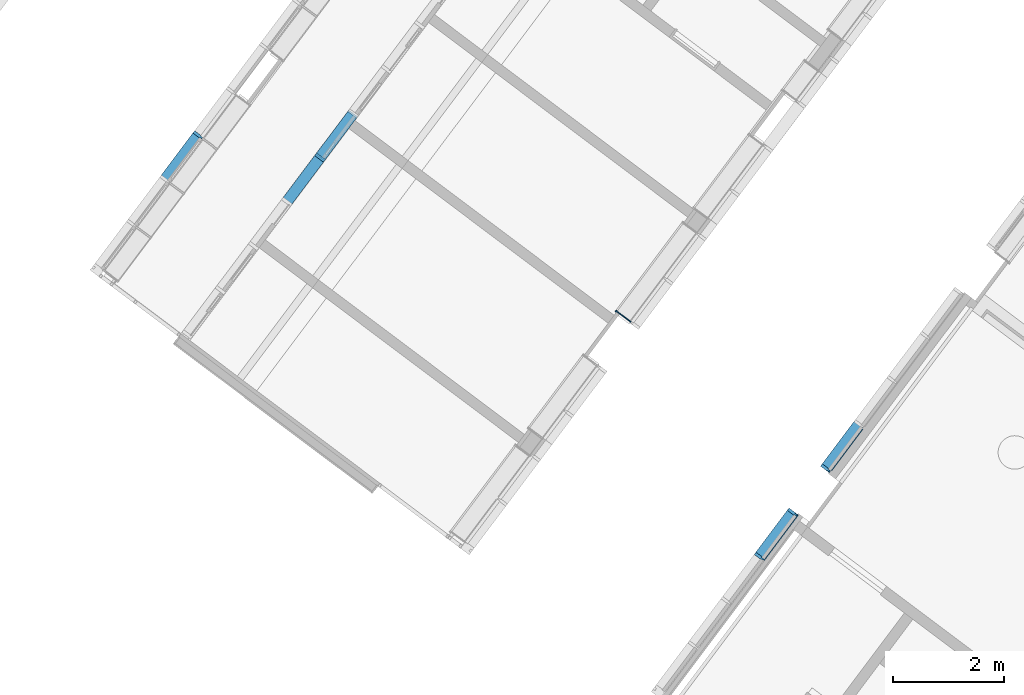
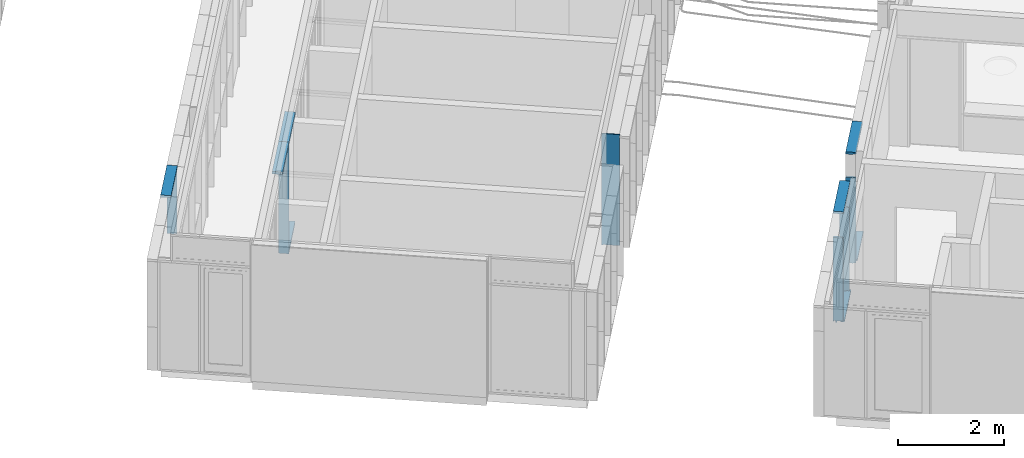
# One storey, part 17 of 243: 14 members, 4 elements without a shape of their own.
"""IFC2X3 building model written with IfcOpenShell, lengths in metres."""

from ifc_helpers import new_model, entity, si_unit, converted_unit, derived_unit, direction, frame, frame_2d, origin, place, context, subcontext, project, spatial, polyline, circle_curve, parameter, trimmed, segment, composite_curve, rectangle, outline, extrude, source, transform, mapped, material, type_object, type_shapes, element, aggregate, save


model = new_model("IFC2X3")

# Units and contexts
model_context = context("Model", 3, precision=1e-05, world=origin(), true_north=direction((6.123031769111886e-17, 1.0)))
body_context = subcontext(model_context, "Body", "Model", "MODEL_VIEW")
ifc_project = project(units=[si_unit("LENGTHUNIT", "METRE"), si_unit("AREAUNIT", "SQUARE_METRE"), si_unit("VOLUMEUNIT", "CUBIC_METRE"), converted_unit("PLANEANGLEUNIT", "DEGREE", entity("IfcRatioMeasure", 0.017453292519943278), si_unit("PLANEANGLEUNIT", "RADIAN"), dimensions=[0, 0, 0, 0, 0, 0, 0]), si_unit("MASSUNIT", "GRAM", prefix="KILO"), derived_unit("MASSDENSITYUNIT", [(si_unit("MASSUNIT", "GRAM", prefix="KILO"), 1), (si_unit("LENGTHUNIT", "METRE"), -3)]), derived_unit("IONCONCENTRATIONUNIT", [(si_unit("MASSUNIT", "GRAM", prefix="KILO"), 1), (si_unit("LENGTHUNIT", "METRE"), -3)]), derived_unit("MOMENTOFINERTIAUNIT", [(si_unit("LENGTHUNIT", "METRE"), 4)]), si_unit("TIMEUNIT", "SECOND"), si_unit("FREQUENCYUNIT", "HERTZ"), si_unit("THERMODYNAMICTEMPERATUREUNIT", "DEGREE_CELSIUS"), derived_unit("THERMALTRANSMITTANCEUNIT", [(si_unit("MASSUNIT", "GRAM", prefix="KILO"), 1), (si_unit("THERMODYNAMICTEMPERATUREUNIT", "KELVIN"), -1), (si_unit("TIMEUNIT", "SECOND"), -3)]), derived_unit("THERMALCONDUCTANCEUNIT", [(si_unit("MASSUNIT", "GRAM", prefix="KILO"), 1), (si_unit("THERMODYNAMICTEMPERATUREUNIT", "KELVIN"), -1), (si_unit("TIMEUNIT", "SECOND"), -3), (si_unit("LENGTHUNIT", "METRE"), 1)]), derived_unit("VOLUMETRICFLOWRATEUNIT", [(si_unit("LENGTHUNIT", "METRE"), 3), (si_unit("TIMEUNIT", "SECOND"), -1)]), derived_unit("MASSFLOWRATEUNIT", [(si_unit("MASSUNIT", "GRAM", prefix="KILO"), 1), (si_unit("TIMEUNIT", "SECOND"), -1)]), derived_unit("ROTATIONALFREQUENCYUNIT", [(si_unit("TIMEUNIT", "SECOND"), -1)]), si_unit("ELECTRICCURRENTUNIT", "AMPERE"), si_unit("ELECTRICVOLTAGEUNIT", "VOLT"), si_unit("POWERUNIT", "WATT"), si_unit("FORCEUNIT", "NEWTON", prefix="KILO"), si_unit("ILLUMINANCEUNIT", "LUX"), si_unit("LUMINOUSFLUXUNIT", "LUMEN"), si_unit("LUMINOUSINTENSITYUNIT", "CANDELA"), derived_unit("USERDEFINED", [(si_unit("MASSUNIT", "GRAM", prefix="KILO"), -1), (si_unit("LENGTHUNIT", "METRE"), -2), (si_unit("TIMEUNIT", "SECOND"), 3), (si_unit("LUMINOUSFLUXUNIT", "LUMEN"), 1)]), derived_unit("USERDEFINED", [(si_unit("MASSUNIT", "GRAM", prefix="KILO"), 1), (si_unit("TIMEUNIT", "SECOND"), -3), (si_unit("LENGTHUNIT", "METRE"), 3), (si_unit("ELECTRICCURRENTUNIT", "AMPERE"), -2)]), derived_unit("SOUNDPOWERUNIT", [(si_unit("MASSUNIT", "GRAM", prefix="KILO"), 1), (si_unit("TIMEUNIT", "SECOND"), -3), (si_unit("LENGTHUNIT", "METRE"), 2)]), derived_unit("SOUNDPRESSUREUNIT", [(si_unit("MASSUNIT", "GRAM", prefix="KILO"), 1), (si_unit("LENGTHUNIT", "METRE"), -1), (si_unit("TIMEUNIT", "SECOND"), -2)]), derived_unit("LINEARVELOCITYUNIT", [(si_unit("LENGTHUNIT", "METRE"), 1), (si_unit("TIMEUNIT", "SECOND"), -1)]), si_unit("PRESSUREUNIT", "PASCAL"), derived_unit("USERDEFINED", [(si_unit("MASSUNIT", "GRAM", prefix="KILO"), 1), (si_unit("LENGTHUNIT", "METRE"), -2), (si_unit("TIMEUNIT", "SECOND"), -2)]), derived_unit("LINEARFORCEUNIT", [(si_unit("MASSUNIT", "GRAM", prefix="KILO"), 1), (si_unit("TIMEUNIT", "SECOND"), -2)]), derived_unit("PLANARFORCEUNIT", [(si_unit("MASSUNIT", "GRAM", prefix="KILO"), 1), (si_unit("LENGTHUNIT", "METRE"), -1), (si_unit("TIMEUNIT", "SECOND"), -2)]), derived_unit("SPECIFICHEATCAPACITYUNIT", [(si_unit("THERMODYNAMICTEMPERATUREUNIT", "KELVIN"), -1), (si_unit("LENGTHUNIT", "METRE"), 2), (si_unit("TIMEUNIT", "SECOND"), -2)]), derived_unit("HEATINGVALUEUNIT", [(si_unit("LENGTHUNIT", "METRE"), 2), (si_unit("TIMEUNIT", "SECOND"), -2)]), derived_unit("VAPORPERMEABILITYUNIT", [(si_unit("LENGTHUNIT", "METRE"), -1), (si_unit("TIMEUNIT", "SECOND"), 1)]), derived_unit("DYNAMICVISCOSITYUNIT", [(si_unit("MASSUNIT", "GRAM", prefix="KILO"), 1), (si_unit("TIMEUNIT", "SECOND"), -1), (si_unit("LENGTHUNIT", "METRE"), -1)]), derived_unit("THERMALEXPANSIONCOEFFICIENTUNIT", [(si_unit("THERMODYNAMICTEMPERATUREUNIT", "KELVIN"), -1)]), derived_unit("MODULUSOFELASTICITYUNIT", [(si_unit("MASSUNIT", "GRAM", prefix="KILO"), 1), (si_unit("LENGTHUNIT", "METRE"), -1), (si_unit("TIMEUNIT", "SECOND"), -2)]), derived_unit("ISOTHERMALMOISTURECAPACITYUNIT", [(si_unit("LENGTHUNIT", "METRE"), 3), (si_unit("MASSUNIT", "GRAM", prefix="KILO"), -1)]), derived_unit("MOISTUREDIFFUSIVITYUNIT", [(si_unit("TIMEUNIT", "SECOND"), -1), (si_unit("LENGTHUNIT", "METRE"), 2)])], contexts=[model_context])

# Site, building, storey
site_placement = place(None, frame((0.0, 0.0, 235.0), z_axis=(0.0, 0.0, 1.0), x_axis=(-0.7996477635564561, 0.6004693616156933, 0.0)))
site = spatial("IfcSite", under=ifc_project, at=site_placement, Name="Default", CompositionType="ELEMENT")
building_placement = place(site_placement, origin())
building = spatial("IfcBuilding", under=site, at=building_placement, CompositionType="ELEMENT")
storey_placement = place(building_placement, origin())
storey = spatial("IfcBuildingStorey", under=building, at=storey_placement, Name="P0- Escola", CompositionType="ELEMENT", Elevation=0.0)

# Curtain wall, members
curtain_wall_type_1 = type_object("IfcCurtainWallType", Name="Muro cortina:MC- INT- a2", PredefinedType="NOTDEFINED")
curtain_wall_1_placement = place(storey_placement, origin())
curtain_wall_1 = element("IfcCurtainWall", 1, at=curtain_wall_1_placement, inside=storey, type_object=curtain_wall_type_1, Name="Muro cortina:MC- INT- a2", ObjectType="Muro cortina:MC- INT- a2")
ifc_material_1 = material(Name="_Fusta massisa- T1")
member_type_1 = type_object("IfcMemberType", Name="Montante rectangular:MC- Fusta- 20x6 cm- Neutre", PredefinedType="MULLION", material=ifc_material_1)
shared_shape_1 = source(origin(), body_context, "Body", "SweptSolid", [
    extrude(rectangle(XDim=0.2, YDim=0.06, at=frame_2d((-5.551115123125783e-17, 0.0), x_axis=(1.0, 0.0))), frame((0.0, 0.060000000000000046, -2.5050000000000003), z_axis=(0.0, 0.0, 1.0), x_axis=(0.0, -1.0, 0.0)), (0.0, 0.0, 1.0), 2.5050000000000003),
])
type_shapes(member_type_1, [shared_shape_1])
member_1_placement = place(curtain_wall_1_placement, frame((34.62014768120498, -24.41519175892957, 0.0), z_axis=(0.0, 0.0, -1.0), x_axis=(0.0, 1.0, 0.0)))
member_1 = element("IfcMember", 2, at=member_1_placement, type_object=member_type_1, material=ifc_material_1, Name="Montante rectangular:MC- Fusta- 20x6 cm- Neutre", ObjectType="Montante rectangular:MC- Fusta- 20x6 cm- Neutre", context=body_context, shape_type="MappedRepresentation", body=[
    mapped(shared_shape_1, transform((0.0, 0.0, 0.0), scale=1.0)),
])
member_type_2 = type_object("IfcMemberType", Name="Montante rectangular:MC- Fusta- 20x6 cm- Neutre", PredefinedType="MULLION", material=ifc_material_1)
shared_shape_2 = source(origin(), body_context, "Body", "SweptSolid", [
    extrude(rectangle(XDim=0.20000000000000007, YDim=0.06, at=frame_2d((-5.551115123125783e-17, 0.0), x_axis=(1.0, 0.0))), frame((-0.03, 0.06000000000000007, -1.0), z_axis=(0.0, 0.0, 1.0), x_axis=(0.0, -1.0, 0.0)), (0.0, 0.0, 1.0), 0.9999999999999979),
])
type_shapes(member_type_2, [shared_shape_2])
member_2_placement = place(curtain_wall_1_placement, frame((34.62014768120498, -23.415191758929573, 2.565), z_axis=(0.0, 1.0, 0.0), x_axis=(0.0, 0.0, 1.0)))
member_2 = element("IfcMember", 3, at=member_2_placement, type_object=member_type_2, material=ifc_material_1, Name="Montante rectangular:MC- Fusta- 20x6 cm- Neutre", ObjectType="Montante rectangular:MC- Fusta- 20x6 cm- Neutre", context=body_context, shape_type="MappedRepresentation", body=[
    mapped(shared_shape_2, transform((0.0, 0.0, 0.0), scale=1.0)),
])
member_type_3 = type_object("IfcMemberType", Name="Montante rectangular:MC- Fusta- 20x6 cm- Neutre", PredefinedType="MULLION", material=ifc_material_1)
shared_shape_3 = source(origin(), body_context, "Body", "SweptSolid", [
    extrude(rectangle(XDim=0.19999999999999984, YDim=0.06, at=frame_2d((4.85722573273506e-17, 0.0), x_axis=(1.0, 0.0))), frame((-0.03, 0.06000000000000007, -0.9399999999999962), z_axis=(0.0, 0.0, 1.0), x_axis=(0.0, -1.0, 0.0)), (0.0, 0.0, 1.0), 0.9399999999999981),
])
type_shapes(member_type_3, [shared_shape_3])
member_3_placement = place(curtain_wall_1_placement, frame((34.62014768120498, -25.38519175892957, 0.0), z_axis=(0.0, -1.0, 0.0), x_axis=(0.0, 0.0, -1.0)))
member_3 = element("IfcMember", 4, at=member_3_placement, type_object=member_type_3, material=ifc_material_1, Name="Montante rectangular:MC- Fusta- 20x6 cm- Neutre", ObjectType="Montante rectangular:MC- Fusta- 20x6 cm- Neutre", context=body_context, shape_type="MappedRepresentation", body=[
    mapped(shared_shape_3, transform((0.0, 0.0, 0.0), scale=1.0)),
])
member_type_4 = type_object("IfcMemberType", Name="Montante rectangular:MC- Fusta- 20x6 cm- Esquerra", PredefinedType="MULLION", material=ifc_material_1)
shared_shape_4 = source(origin(), body_context, "Body", "SweptSolid", [
    extrude(outline(polyline([(-0.13000000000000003, -0.018750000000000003), (0.020000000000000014, -0.018750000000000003), (0.020000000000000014, -0.003750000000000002), (0.040000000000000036, -0.003750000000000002), (0.04000000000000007, -0.01875000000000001), (0.07000000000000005, -0.018750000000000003), (0.06999999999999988, 0.041249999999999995), (-0.13000000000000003, 0.041249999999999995), (-0.13000000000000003, -0.018750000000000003)])), frame((-0.041249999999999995, 0.030000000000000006, -1.0), z_axis=(0.0, 0.0, 1.0), x_axis=(0.0, -1.0, 0.0)), (0.0, 0.0, 1.0), 0.9999999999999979),
])
type_shapes(member_type_4, [shared_shape_4])
member_4_placement = place(curtain_wall_1_placement, frame((34.62014768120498, -24.41519175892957, 2.565), z_axis=(0.0, 1.0, 0.0), x_axis=(0.0, 0.0, 1.0)))
member_4 = element("IfcMember", 5, at=member_4_placement, type_object=member_type_4, material=ifc_material_1, Name="Montante rectangular:MC- Fusta- 20x6 cm- Esquerra", ObjectType="Montante rectangular:MC- Fusta- 20x6 cm- Esquerra", context=body_context, shape_type="MappedRepresentation", body=[
    mapped(shared_shape_4, transform((0.0, 0.0, 0.0), scale=1.0)),
])
aggregate(curtain_wall_1, [member_4, member_1, member_2, member_3])

# Curtain wall, member
curtain_wall_type_2 = type_object("IfcCurtainWallType", Name="Muro cortina:MC- INT- k7- Aules infantil", PredefinedType="NOTDEFINED")
curtain_wall_2_placement = place(storey_placement, origin())
curtain_wall_2 = element("IfcCurtainWall", 6, at=curtain_wall_2_placement, inside=storey, type_object=curtain_wall_type_2, Name="Muro cortina:MC- INT- k7- Aules infantil", ObjectType="Muro cortina:MC- INT- k7- Aules infantil")
member_type_5 = type_object("IfcMemberType", Name="Montante rectangular:MC- Fusta- 35x3 cm- Pati aules- Remat esquerra", PredefinedType="MULLION", material=ifc_material_1)
shared_shape_5 = source(origin(), body_context, "Body", "SweptSolid", [
    extrude(outline(polyline([(-0.22000000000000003, -0.01666666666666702), (0.12500000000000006, -0.01666666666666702), (0.12499999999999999, 0.013333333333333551), (0.09500000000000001, 0.013333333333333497), (0.09499999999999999, 0.003333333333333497), (-0.22, 0.003333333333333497), (-0.22000000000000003, -0.01666666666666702)])), frame((-0.013333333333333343, 0.030000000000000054, -2.5649999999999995), z_axis=(0.0, 0.0, 1.0), x_axis=(0.0, -1.0, 0.0)), (0.0, 0.0, 1.0), 2.565),
])
type_shapes(member_type_5, [shared_shape_5])
member_5_placement = place(curtain_wall_2_placement, frame((28.64514768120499, -25.395191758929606, 2.565), z_axis=(0.0, 0.0, 1.0), x_axis=(0.0, 1.0, 0.0)))
member_5 = element("IfcMember", 7, at=member_5_placement, type_object=member_type_5, material=ifc_material_1, Name="Montante rectangular:MC- Fusta- 35x3 cm- Pati aules- Remat esquerra", ObjectType="Montante rectangular:MC- Fusta- 35x3 cm- Pati aules- Remat esquerra", context=body_context, shape_type="MappedRepresentation", body=[
    mapped(shared_shape_5, transform((0.0, 0.0, 0.0), scale=1.0)),
])
aggregate(curtain_wall_2, [member_5])

curtain_wall_type_3 = type_object("IfcCurtainWallType", Name="Muro cortina:MC- EXT- MC2", PredefinedType="NOTDEFINED")
curtain_wall_3_placement = place(storey_placement, origin())
curtain_wall_3 = element("IfcCurtainWall", 8, at=curtain_wall_3_placement, inside=storey, type_object=curtain_wall_type_3, Name="Muro cortina:MC- EXT- MC2", ObjectType="Muro cortina:MC- EXT- MC2")
ifc_material_2 = material(Name="_Alumini- T1- Perfil")
member_type_6 = type_object("IfcMemberType", Name="Montante rectangular:MC- Alu- 140x52,5 cm- Fa patis- inferior", PredefinedType="MULLION", material=ifc_material_2)
shared_shape_6 = source(origin(), body_context, "Body", "SweptSolid", [
    extrude(outline(composite_curve([segment(polyline([(-0.144167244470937, -0.02586710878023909), (-0.12786724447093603, -0.025867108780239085)]), True, "CONTINUOUS"), segment(polyline([(-0.12786724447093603, -0.025867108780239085), (-0.12786724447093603, -0.02316710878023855)]), True, "CONTINUOUS"), segment(polyline([(-0.12786724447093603, -0.02316710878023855), (-0.0678672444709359, -0.02316710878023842)]), True, "CONTINUOUS"), segment(polyline([(-0.0678672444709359, -0.02316710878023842), (0.07031215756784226, -0.010722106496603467)]), True, "CONTINUOUS"), segment(trimmed(circle_curve(frame_2d((0.07013275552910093, -0.008730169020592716), x_axis=(0.0897010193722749, -0.9959687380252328)), 0.0019999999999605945), [parameter(0.0)], [parameter(84.8535928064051)], True, "PARAMETER"), True, "CONTINUOUS"), segment(polyline([(0.07213275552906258, -0.00873016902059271), (0.07213275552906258, 0.0062663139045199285)]), True, "CONTINUOUS"), segment(trimmed(circle_curve(frame_2d((0.070132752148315, 0.006266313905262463), x_axis=(1.0, 0.0)), 0.002000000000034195), [parameter(0.0)], [parameter(90.00000002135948)], True, "PARAMETER"), True, "CONTINUOUS"), segment(polyline([(0.070132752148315, 0.00826631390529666), (0.06213275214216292, 0.008266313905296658)]), True, "CONTINUOUS"), segment(polyline([(0.06213275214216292, 0.008266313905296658), (0.06213275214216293, 0.006266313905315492)]), True, "CONTINUOUS"), segment(polyline([(0.06213275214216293, 0.006266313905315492), (0.06963275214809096, 0.006266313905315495)]), True, "CONTINUOUS"), segment(trimmed(circle_curve(frame_2d((0.06963275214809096, 0.005766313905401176), x_axis=(0.0, 1.0)), 0.0004999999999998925), [parameter(269.99999999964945)], [parameter(0.0)], True, "PARAMETER"), False, "CONTINUOUS"), segment(polyline([(0.07013275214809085, 0.0057663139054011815), (0.07013275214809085, -0.008730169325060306)]), True, "CONTINUOUS"), segment(polyline([(0.07013275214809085, -0.008730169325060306), (0.03213275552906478, -0.012152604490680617)]), True, "CONTINUOUS"), segment(polyline([(0.03213275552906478, -0.012152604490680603), (0.03213275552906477, 0.02913289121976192)]), True, "CONTINUOUS"), segment(polyline([(0.03213275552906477, 0.02913289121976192), (0.0021327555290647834, 0.02913289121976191)]), True, "CONTINUOUS"), segment(polyline([(0.0021327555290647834, 0.02913289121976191), (0.0021327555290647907, 0.027132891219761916)]), True, "CONTINUOUS"), segment(polyline([(0.0021327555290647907, 0.027132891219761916), (0.03013275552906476, 0.027132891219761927)]), True, "CONTINUOUS"), segment(polyline([(0.03013275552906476, 0.02713289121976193), (0.03013275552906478, -0.012332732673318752)]), True, "CONTINUOUS"), segment(polyline([(0.03013275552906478, -0.012332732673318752), (-0.06786724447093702, -0.021159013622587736)]), True, "CONTINUOUS"), segment(polyline([(-0.06786724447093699, -0.021159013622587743), (-0.067867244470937, 0.0091328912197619)]), True, "CONTINUOUS"), segment(polyline([(-0.06786724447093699, 0.0091328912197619), (-0.14416724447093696, 0.009132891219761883)]), True, "CONTINUOUS"), segment(polyline([(-0.14416724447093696, 0.009132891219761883), (-0.144167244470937, -0.02586710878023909)]), True, "CONTINUOUS")], self_intersect=False)), frame((-0.029132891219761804, -0.06786724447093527, -0.9474999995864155), z_axis=(0.0, 0.0, 1.0), x_axis=(0.0, -1.0, 0.0)), (0.0, 0.0, 1.0), 0.9474999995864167),
])
type_shapes(member_type_6, [shared_shape_6])
member_6_placement = place(curtain_wall_3_placement, frame((23.94514768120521, -25.44144175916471, -0.02), z_axis=(0.0, 1.0, 0.0), x_axis=(0.0, 0.0, -1.0)))
member_6 = element("IfcMember", 9, at=member_6_placement, type_object=member_type_6, material=ifc_material_2, Name="Montante rectangular:MC- Alu- 140x52,5 cm- Fa patis- inferior", ObjectType="Montante rectangular:MC- Alu- 140x52,5 cm- Fa patis- inferior", context=body_context, shape_type="MappedRepresentation", body=[
    mapped(shared_shape_6, transform((0.0, 0.0, 0.0), scale=1.0)),
])

curtain_wall_type_4 = type_object("IfcCurtainWallType", Name="Muro cortina:MC- EXT- MC5", PredefinedType="NOTDEFINED")
curtain_wall_4_placement = place(storey_placement, origin())
curtain_wall_4 = element("IfcCurtainWall", 10, at=curtain_wall_4_placement, inside=storey, type_object=curtain_wall_type_4, Name="Muro cortina:MC- EXT- MC5", ObjectType="Muro cortina:MC- EXT- MC5")
member_type_7 = type_object("IfcMemberType", Name="Montante rectangular:MC- Alu- 140x52,5 cm- Fa patis- Superior", PredefinedType="MULLION", material=ifc_material_2)
shared_shape_7 = source(origin(), body_context, "Body", "SweptSolid", [
    extrude(outline(polyline([(-0.026333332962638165, -0.021249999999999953), (0.11366666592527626, -0.021249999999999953), (0.11366666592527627, 0.031250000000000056), (-0.08733333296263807, 0.03125000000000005), (-0.0873333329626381, -0.010000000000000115), (-0.026333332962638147, -0.010000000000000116), (-0.026333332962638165, -0.021249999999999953)])), frame((-0.031250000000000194, -0.02733333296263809, -1.0), z_axis=(0.0, 0.0, 1.0), x_axis=(0.0, -1.0, 0.0)), (0.0, 0.0, 1.0), 1.0000000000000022),
])
type_shapes(member_type_7, [shared_shape_7])
member_7_placement = place(curtain_wall_4_placement, frame((36.6451476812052, -23.415191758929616, 2.545), z_axis=(0.0, -1.0, 0.0), x_axis=(0.0, 0.0, 1.0)))
member_7 = element("IfcMember", 11, at=member_7_placement, type_object=member_type_7, material=ifc_material_2, Name="Montante rectangular:MC- Alu- 140x52,5 cm- Fa patis- Superior", ObjectType="Montante rectangular:MC- Alu- 140x52,5 cm- Fa patis- Superior", context=body_context, shape_type="MappedRepresentation", body=[
    mapped(shared_shape_7, transform((0.0, 0.0, 0.0), scale=1.0)),
])

# Member
member_type_8 = type_object("IfcMemberType", Name="Montante rectangular:MC- Alu- 140x52,5 cm- Fa patis- Superior", PredefinedType="MULLION", material=ifc_material_2)
shared_shape_8 = source(origin(), body_context, "Body", "SweptSolid", [
    extrude(outline(polyline([(-0.026333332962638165, -0.021249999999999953), (0.11366666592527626, -0.021249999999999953), (0.11366666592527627, 0.031250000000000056), (-0.08733333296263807, 0.03125000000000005), (-0.0873333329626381, -0.010000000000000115), (-0.026333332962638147, -0.010000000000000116), (-0.026333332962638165, -0.021249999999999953)])), frame((-0.031250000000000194, -0.02733333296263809, -1.0262500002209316), z_axis=(0.0, 0.0, 1.0), x_axis=(0.0, -1.0, 0.0)), (0.0, 0.0, 1.0), 1.0262500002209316),
])
type_shapes(member_type_8, [shared_shape_8])
member_8_placement = place(curtain_wall_3_placement, frame((23.94514768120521, -24.441441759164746, 2.545), z_axis=(0.0, -1.0, 0.0), x_axis=(0.0, 0.0, 1.0)))
member_8 = element("IfcMember", 12, at=member_8_placement, type_object=member_type_8, material=ifc_material_2, Name="Montante rectangular:MC- Alu- 140x52,5 cm- Fa patis- Superior", ObjectType="Montante rectangular:MC- Alu- 140x52,5 cm- Fa patis- Superior", context=body_context, shape_type="MappedRepresentation", body=[
    mapped(shared_shape_8, transform((0.0, 0.0, 0.0), scale=1.0)),
])

member_type_9 = type_object("IfcMemberType", Name="Montante rectangular:MC- Alu- 140x52,5 cm- Fa patis- Superior", PredefinedType="MULLION", material=ifc_material_2)
shared_shape_9 = source(origin(), body_context, "Body", "SweptSolid", [
    extrude(outline(polyline([(-0.026333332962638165, -0.021249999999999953), (0.11366666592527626, -0.021249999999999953), (0.11366666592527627, 0.031250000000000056), (-0.08733333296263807, 0.03125000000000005), (-0.0873333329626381, -0.010000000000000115), (-0.026333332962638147, -0.010000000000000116), (-0.026333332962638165, -0.021249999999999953)])), frame((-0.031250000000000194, -0.02733333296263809, -1.0262500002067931), z_axis=(0.0, 0.0, 1.0), x_axis=(0.0, -1.0, 0.0)), (0.0, 0.0, 1.0), 1.0262500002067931),
])
type_shapes(member_type_9, [shared_shape_9])
member_9_placement = place(curtain_wall_3_placement, frame((23.94514768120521, -26.415191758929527, 2.545), z_axis=(0.0, -1.0, 0.0), x_axis=(0.0, 0.0, 1.0)))
member_9 = element("IfcMember", 13, at=member_9_placement, type_object=member_type_9, material=ifc_material_2, Name="Montante rectangular:MC- Alu- 140x52,5 cm- Fa patis- Superior", ObjectType="Montante rectangular:MC- Alu- 140x52,5 cm- Fa patis- Superior", context=body_context, shape_type="MappedRepresentation", body=[
    mapped(shared_shape_9, transform((0.0, 0.0, 0.0), scale=1.0)),
])

member_type_10 = type_object("IfcMemberType", Name="Montante rectangular:MC- Alu- 140x52,5 cm- Fa patis- Centre", PredefinedType="MULLION", material=ifc_material_2)
shared_shape_10 = source(origin(), body_context, "Body", "SweptSolid", [
    extrude(outline(polyline([(-0.021999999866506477, -0.026250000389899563), (0.11699999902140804, -0.026250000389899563), (0.11699999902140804, 0.026250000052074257), (-0.02200000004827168, 0.026250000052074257), (-0.02200000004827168, 0.015000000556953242), (-0.07299999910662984, 0.015000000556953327), (-0.07299999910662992, -0.01500000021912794), (-0.021999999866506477, -0.01500000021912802), (-0.021999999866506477, -0.026250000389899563)])), frame((0.0, -0.022999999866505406, -1.9749999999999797), z_axis=(0.0, 0.0, 1.0), x_axis=(0.0, -1.0, 0.0)), (0.0, 0.0, 1.0), 1.9749999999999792),
])
type_shapes(member_type_10, [shared_shape_10])
member_10_placement = place(curtain_wall_3_placement, frame((23.94514768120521, -25.415191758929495, -0.02), z_axis=(0.0, 0.0, -1.0), x_axis=(0.0, -1.0, 0.0)))
member_10 = element("IfcMember", 14, at=member_10_placement, type_object=member_type_10, material=ifc_material_2, Name="Montante rectangular:MC- Alu- 140x52,5 cm- Fa patis- Centre", ObjectType="Montante rectangular:MC- Alu- 140x52,5 cm- Fa patis- Centre", context=body_context, shape_type="MappedRepresentation", body=[
    mapped(shared_shape_10, transform((0.0, 0.0, 0.0), scale=1.0)),
])

member_type_11 = type_object("IfcMemberType", Name="Montante rectangular:MC- Alu- 140x52,5 cm- Fa patis- Centre", PredefinedType="MULLION", material=ifc_material_2)
shared_shape_11 = source(origin(), body_context, "Body", "SweptSolid", [
    extrude(outline(polyline([(-0.021999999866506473, -0.026250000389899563), (0.11699999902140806, -0.026250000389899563), (0.11699999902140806, 0.026250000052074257), (-0.022000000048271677, 0.026250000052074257), (-0.022000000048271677, 0.015000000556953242), (-0.07299999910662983, 0.015000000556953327), (-0.07299999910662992, -0.01500000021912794), (-0.021999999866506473, -0.01500000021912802), (-0.021999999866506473, -0.026250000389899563)])), frame((0.0, -0.022999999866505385, -1.919999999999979), z_axis=(0.0, 0.0, 1.0), x_axis=(0.0, -1.0, 0.0)), (0.0, 0.0, 1.0), 1.9199999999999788),
])
type_shapes(member_type_11, [shared_shape_11])
member_11_placement = place(curtain_wall_3_placement, frame((23.945147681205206, -23.415191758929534, 0.035000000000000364), z_axis=(0.0, 0.0, -1.0), x_axis=(0.0, -1.0, 0.0)))
member_11 = element("IfcMember", 15, at=member_11_placement, type_object=member_type_11, material=ifc_material_2, Name="Montante rectangular:MC- Alu- 140x52,5 cm- Fa patis- Centre", ObjectType="Montante rectangular:MC- Alu- 140x52,5 cm- Fa patis- Centre", context=body_context, shape_type="MappedRepresentation", body=[
    mapped(shared_shape_11, transform((0.0, 0.0, 0.0), scale=1.0)),
])

member_12_placement = place(curtain_wall_3_placement, frame((23.94514768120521, -24.41519175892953, 0.035000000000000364), z_axis=(0.0, 0.0, -1.0), x_axis=(0.0, -1.0, 0.0)))
member_12 = element("IfcMember", 16, at=member_12_placement, type_object=member_type_11, material=ifc_material_2, Name="Montante rectangular:MC- Alu- 140x52,5 cm- Fa patis- Centre", ObjectType="Montante rectangular:MC- Alu- 140x52,5 cm- Fa patis- Centre", context=body_context, shape_type="MappedRepresentation", body=[
    mapped(shared_shape_11, transform((0.0, 0.0, 0.0), scale=1.0)),
])

member_type_12 = type_object("IfcMemberType", Name="Montante rectangular:MC- Alu- 140x52,5 cm- Fa patis- inferior", PredefinedType="MULLION", material=ifc_material_2)
shared_shape_12 = source(origin(), body_context, "Body", "SweptSolid", [
    extrude(outline(composite_curve([segment(polyline([(-0.144167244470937, -0.02586710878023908), (-0.12786724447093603, -0.025867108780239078)]), True, "CONTINUOUS"), segment(polyline([(-0.12786724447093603, -0.025867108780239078), (-0.12786724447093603, -0.023167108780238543)]), True, "CONTINUOUS"), segment(polyline([(-0.12786724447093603, -0.023167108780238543), (-0.0678672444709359, -0.023167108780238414)]), True, "CONTINUOUS"), segment(polyline([(-0.0678672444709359, -0.023167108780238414), (0.07031215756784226, -0.01072210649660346)]), True, "CONTINUOUS"), segment(trimmed(circle_curve(frame_2d((0.07013275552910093, -0.008730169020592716), x_axis=(0.0897010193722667, -0.9959687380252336)), 0.001999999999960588), [parameter(0.0)], [parameter(84.85359280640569)], True, "PARAMETER"), True, "CONTINUOUS"), segment(polyline([(0.07213275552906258, -0.008730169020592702), (0.07213275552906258, 0.006266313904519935)]), True, "CONTINUOUS"), segment(trimmed(circle_curve(frame_2d((0.070132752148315, 0.006266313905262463), x_axis=(1.0, 0.0)), 0.0020000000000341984), [parameter(0.0)], [parameter(90.00000002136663)], True, "PARAMETER"), True, "CONTINUOUS"), segment(polyline([(0.070132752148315, 0.008266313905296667), (0.06213275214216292, 0.008266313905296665)]), True, "CONTINUOUS"), segment(polyline([(0.06213275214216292, 0.008266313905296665), (0.06213275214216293, 0.006266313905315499)]), True, "CONTINUOUS"), segment(polyline([(0.06213275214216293, 0.006266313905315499), (0.06963275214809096, 0.006266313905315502)]), True, "CONTINUOUS"), segment(trimmed(circle_curve(frame_2d((0.06963275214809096, 0.005766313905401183), x_axis=(0.0, 1.0)), 0.0004999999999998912), [parameter(269.9999999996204)], [parameter(0.0)], True, "PARAMETER"), False, "CONTINUOUS"), segment(polyline([(0.07013275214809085, 0.005766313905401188), (0.07013275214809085, -0.0087301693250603)]), True, "CONTINUOUS"), segment(polyline([(0.07013275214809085, -0.0087301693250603), (0.03213275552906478, -0.01215260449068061)]), True, "CONTINUOUS"), segment(polyline([(0.03213275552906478, -0.012152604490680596), (0.03213275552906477, 0.02913289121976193)]), True, "CONTINUOUS"), segment(polyline([(0.03213275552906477, 0.02913289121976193), (0.0021327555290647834, 0.029132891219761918)]), True, "CONTINUOUS"), segment(polyline([(0.0021327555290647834, 0.029132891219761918), (0.0021327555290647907, 0.027132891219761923)]), True, "CONTINUOUS"), segment(polyline([(0.0021327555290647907, 0.027132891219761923), (0.03013275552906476, 0.027132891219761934)]), True, "CONTINUOUS"), segment(polyline([(0.03013275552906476, 0.027132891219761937), (0.03013275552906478, -0.012332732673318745)]), True, "CONTINUOUS"), segment(polyline([(0.03013275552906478, -0.012332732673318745), (-0.06786724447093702, -0.02115901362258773)]), True, "CONTINUOUS"), segment(polyline([(-0.06786724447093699, -0.021159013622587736), (-0.067867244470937, 0.009132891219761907)]), True, "CONTINUOUS"), segment(polyline([(-0.06786724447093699, 0.009132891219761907), (-0.14416724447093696, 0.00913289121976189)]), True, "CONTINUOUS"), segment(polyline([(-0.14416724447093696, 0.00913289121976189), (-0.144167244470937, -0.02586710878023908)]), True, "CONTINUOUS")], self_intersect=False)), frame((-0.02913289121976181, -0.06786724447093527, -1.0262500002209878), z_axis=(0.0, 0.0, 1.0), x_axis=(0.0, -1.0, 0.0)), (0.0, 0.0, 1.0), 1.0262500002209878),
])
type_shapes(member_type_12, [shared_shape_12])
member_13_placement = place(curtain_wall_3_placement, frame((23.945147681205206, -23.415191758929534, -0.02), z_axis=(0.0, 1.0, 0.0), x_axis=(0.0, 0.0, -1.0)))
member_13 = element("IfcMember", 17, at=member_13_placement, type_object=member_type_12, material=ifc_material_2, Name="Montante rectangular:MC- Alu- 140x52,5 cm- Fa patis- inferior", ObjectType="Montante rectangular:MC- Alu- 140x52,5 cm- Fa patis- inferior", context=body_context, shape_type="MappedRepresentation", body=[
    mapped(shared_shape_12, transform((0.0, 0.0, 0.0), scale=1.0)),
])

aggregate(curtain_wall_3, [member_13, member_11, member_8, member_12, member_9, member_6, member_10])

member_type_13 = type_object("IfcMemberType", Name="Montante rectangular:MC- Alu- 140x52,5 cm- Fa patis- Centre", PredefinedType="MULLION", material=ifc_material_2)
shared_shape_13 = source(origin(), body_context, "Body", "SweptSolid", [
    extrude(outline(polyline([(-0.021999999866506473, -0.026250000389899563), (0.11699999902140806, -0.026250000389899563), (0.11699999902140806, 0.026250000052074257), (-0.022000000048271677, 0.026250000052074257), (-0.022000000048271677, 0.015000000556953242), (-0.07299999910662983, 0.015000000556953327), (-0.07299999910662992, -0.01500000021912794), (-0.021999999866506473, -0.01500000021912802), (-0.021999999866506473, -0.026250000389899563)])), frame((0.0, -0.022999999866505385, -1.5124999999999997), z_axis=(0.0, 0.0, 1.0), x_axis=(0.0, -1.0, 0.0)), (0.0, 0.0, 1.0), 1.5124999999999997),
])
type_shapes(member_type_13, [shared_shape_13])
member_14_placement = place(curtain_wall_4_placement, frame((36.6451476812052, -23.415191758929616, 0.98), z_axis=(0.0, 0.0, -1.0), x_axis=(0.0, -1.0, 0.0)))
member_14 = element("IfcMember", 18, at=member_14_placement, type_object=member_type_13, material=ifc_material_2, Name="Montante rectangular:MC- Alu- 140x52,5 cm- Fa patis- Centre", ObjectType="Montante rectangular:MC- Alu- 140x52,5 cm- Fa patis- Centre", context=body_context, shape_type="MappedRepresentation", body=[
    mapped(shared_shape_13, transform((0.0, 0.0, 0.0), scale=1.0)),
])

aggregate(curtain_wall_4, [member_7, member_14])

save(model, "model.ifc")
